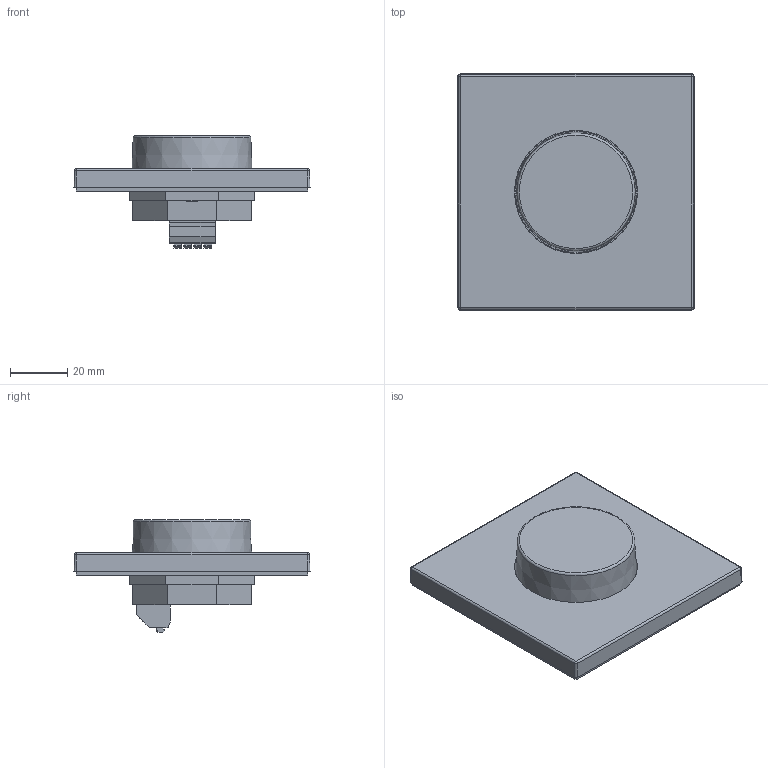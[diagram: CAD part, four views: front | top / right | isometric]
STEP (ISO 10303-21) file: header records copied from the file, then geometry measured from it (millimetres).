
FILE_DESCRIPTION(/* description */ ('Unknown'),/* implementation_level */ '2;1');
FILE_NAME(/* name */ 'DALI-ROT_withCover',/* time_stamp */ '2023-07-15T22:16:29+02:00',/* author */ ('Unknown'),/* organization */ ('Unknown'),/* preprocessor_version */ 'ST-DEVELOPER v16.7',/* originating_system */ 'DEX',/* authorisation */ $);
FILE_SCHEMA (('AUTOMOTIVE_DESIGN {1 0 10303 214 3 1 1}'));
Length unit declared in the file: millimetre
Products named in the file (5): Assembly_for_Export_ROTw-wo-Cover; asmROT; Rahmen; Knopf; Mutter
Assembly tree (4 placements, depth 2):
  Assembly_for_Export_ROTw-wo-Cover
    asmROT
    Rahmen
    Knopf
    Mutter
Bounding box: 82.45 x 82.45 x 39.24 mm (x, y, z)
Volume: 48370.3 mm3; surface area: 38502.6 mm2
Topology: 4 solids, 4 shells, 408 faces, 1054 edges, 683 vertices
Faces by surface type: plane 254, cylinder 104, cone 34, torus 10, sphere 4, bspline 2
Full cylindrical faces by diameter (mm): 1.5 x2, 2.5 x1, 3 x3, 3.8 x1, 4 x1, 4.1 x1, 6 x3, 7 x1, 7.241 x1, 9.6 x1, 12 x1, 21.438 x1
Entity records: 14321 total; most frequent: CARTESIAN_POINT 2287, DIRECTION 2026, ORIENTED_EDGE 1976, EDGE_CURVE 988, AXIS2_PLACEMENT_3D 688, VERTEX_POINT 661, LINE 650, VECTOR 650
